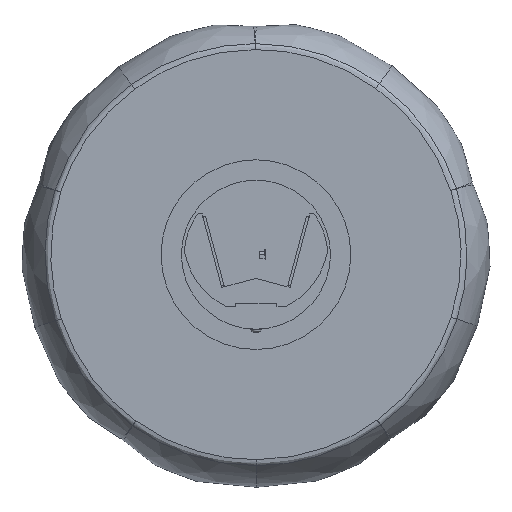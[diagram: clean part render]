
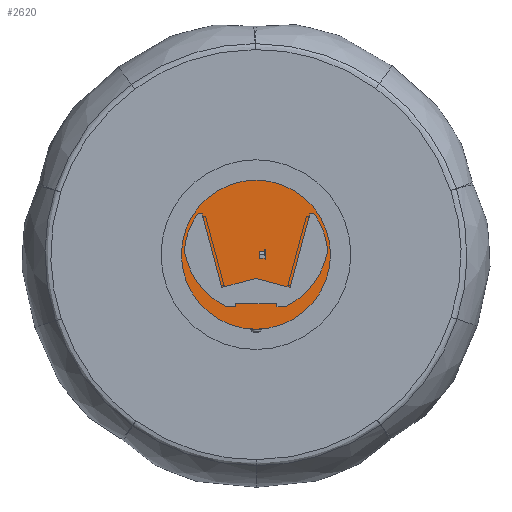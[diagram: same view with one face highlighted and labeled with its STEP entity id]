
A CAD part, front view. The second image highlights one B-rep face of the part: STEP entity #2620.
In plain terms, the highlighted planar face has unit normal (0, -1, 0).
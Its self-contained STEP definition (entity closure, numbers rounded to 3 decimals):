
#537=FACE_OUTER_BOUND('',#704,.T.);
#704=EDGE_LOOP('',(#1656));
#870=CIRCLE('',#2836,55.);
#1013=VERTEX_POINT('',#3833);
#1253=EDGE_CURVE('',#1013,#1013,#870,.T.);
#1656=ORIENTED_EDGE('',*,*,#1253,.T.);
#2370=PLANE('',#2835);
#2620=ADVANCED_FACE('',(#537),#2370,.T.);
#2835=AXIS2_PLACEMENT_3D('',#3832,#3151,#3152);
#2836=AXIS2_PLACEMENT_3D('',#3834,#3153,#3154);
#3151=DIRECTION('center_axis',(0.,-1.,0.));
#3152=DIRECTION('ref_axis',(0.,0.,
-1.));
#3153=DIRECTION('center_axis',(0.,-1.,0.));
#3154=DIRECTION('ref_axis',(0.,0.,
-1.));
#3832=CARTESIAN_POINT('Origin',(0.,0.,
0.));
#3833=CARTESIAN_POINT('',(0.,0.,55.));
#3834=CARTESIAN_POINT('Origin',(0.,0.,
0.));
